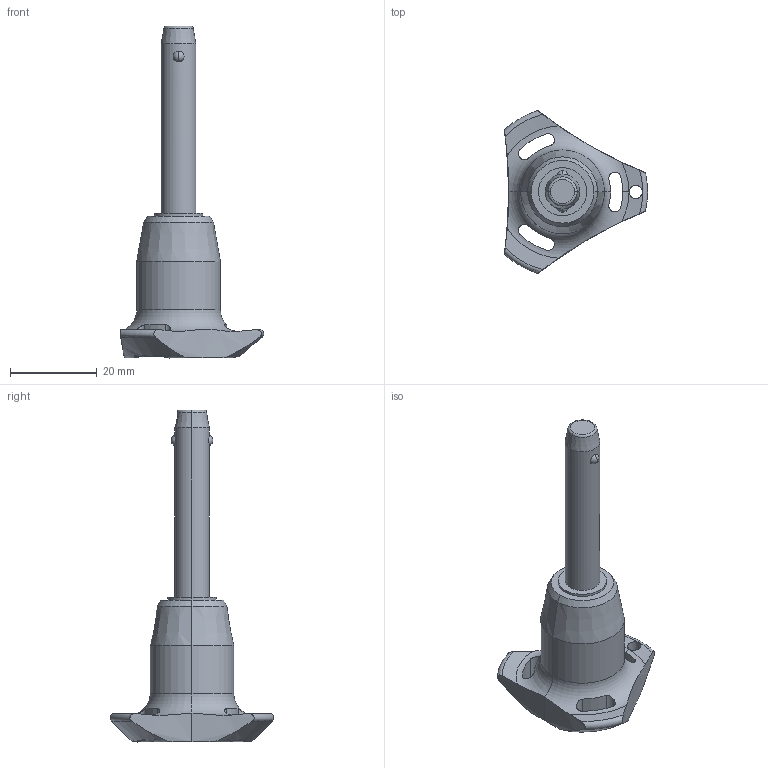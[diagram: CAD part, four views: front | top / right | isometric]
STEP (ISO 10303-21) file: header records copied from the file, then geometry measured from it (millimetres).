
FILE_DESCRIPTION (( 'STEP AP203' ), '1' );
FILE_NAME ('QR1734.M08-035-S.step', '2025-11-12T14:20:52', ( '' ), ( '' ), 'SwSTEP 2.0', 'SolidWorks 2019', '' );
FILE_SCHEMA (( 'CONFIG_CONTROL_DESIGN' ));
Length unit declared in the file: millimetre
Products named in the file (1): QR1734.M08-035-S
Bounding box: 33 x 37.51 x 76.5 mm (x, y, z)
Volume: 12409.5 mm3; surface area: 4934.2 mm2
Topology: 1 solids, 1 shells, 65 faces, 174 edges, 109 vertices
Faces by surface type: cylinder 30, cone 14, torus 11, sphere 6, plane 4
Entity records: 2746 total; most frequent: CARTESIAN_POINT 1073, ORIENTED_EDGE 348, DIRECTION 331, EDGE_CURVE 174, AXIS2_PLACEMENT_3D 147, VERTEX_POINT 109, CIRCLE 81, EDGE_LOOP 71
